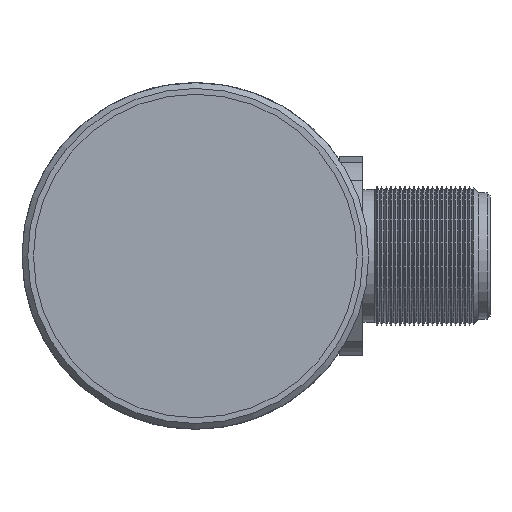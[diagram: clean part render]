
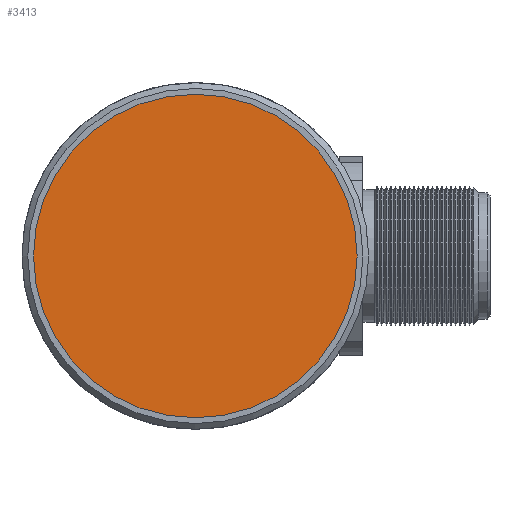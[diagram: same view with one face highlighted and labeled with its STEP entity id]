
A CAD part, left-side view. The second image highlights one B-rep face of the part: STEP entity #3413.
In plain terms, the highlighted planar face has unit normal (-1, 0, 0).
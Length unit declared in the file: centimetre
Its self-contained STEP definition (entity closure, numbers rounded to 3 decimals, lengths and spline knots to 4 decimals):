
#430=PLANE('',#3682);
#836=VERTEX_POINT('',#4058);
#1138=CIRCLE('',#3681,1.4);
#1310=EDGE_CURVE('',#836,#836,#1138,.T.);
#1774=ORIENTED_EDGE('',*,*,#1310,.T.);
#2680=EDGE_LOOP('',(#1774));
#3051=FACE_BOUND('',#2680,.T.);
#3413=ADVANCED_FACE('',(#3051),#430,.F.);
#3681=AXIS2_PLACEMENT_3D('',#4057,#5697,#5698);
#3682=AXIS2_PLACEMENT_3D('',#4059,#5699,$);
#4057=CARTESIAN_POINT('',(-4.1,0.,0.));
#4058=CARTESIAN_POINT('',(-4.1,0.,-1.4));
#4059=CARTESIAN_POINT('',(-4.1,0.,0.));
#5697=DIRECTION('',(-1.,0.,0.));
#5698=DIRECTION('',(0.,0.,-1.4));
#5699=DIRECTION('',(1.,0.,0.));
